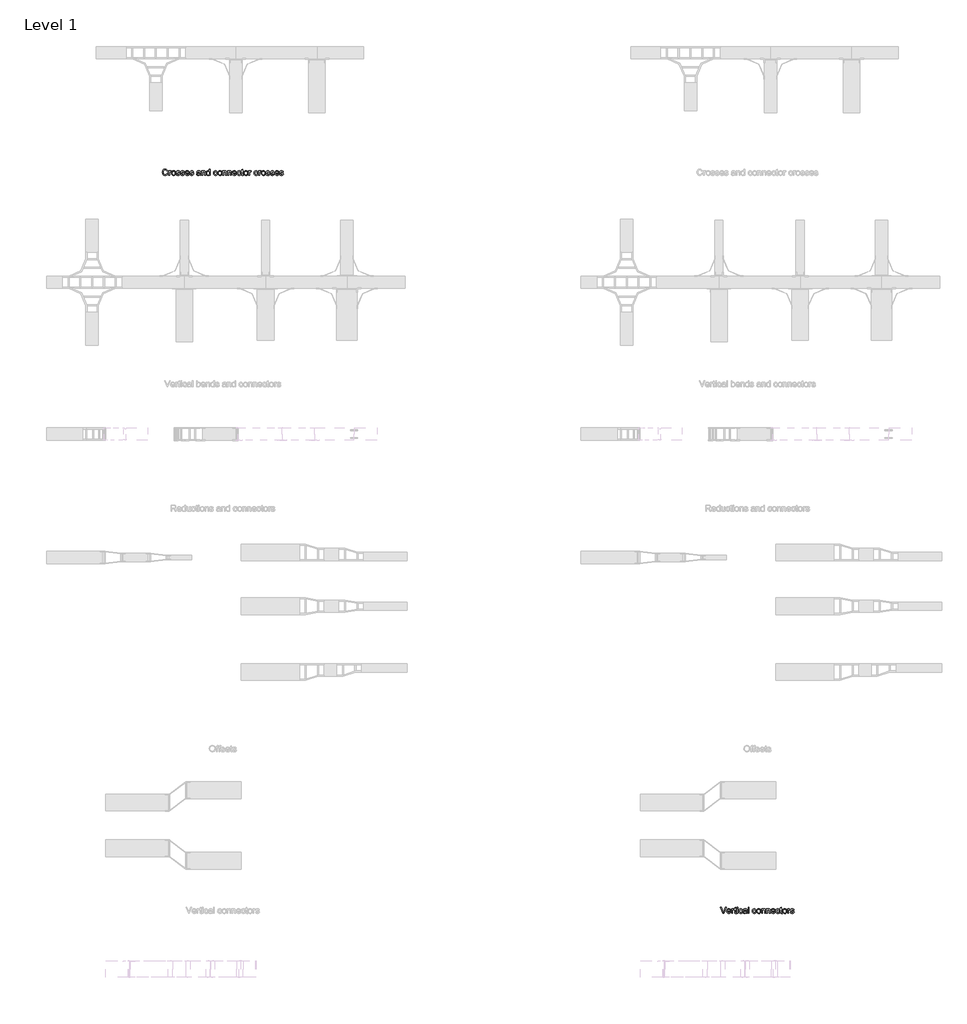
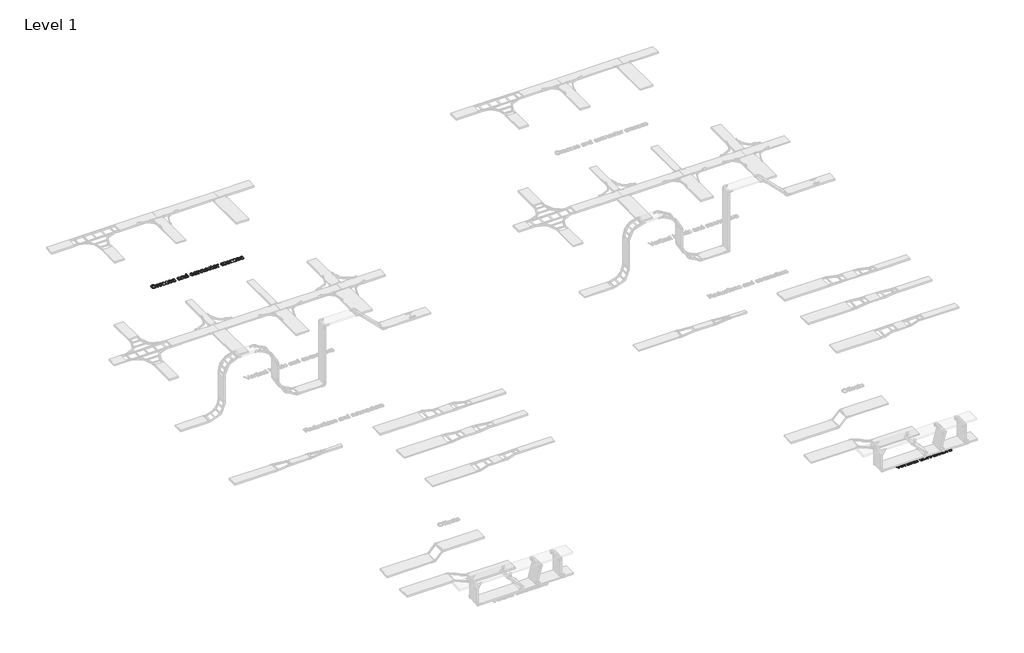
# One storey, part 40 of 106: 2 proxies.
"""IFC4 building model written with IfcOpenShell, lengths in millimetres."""

from ifc_helpers import new_model, si_unit, origin, origin_with_axes, place, context, project, spatial, polyline, outline, extrude, element, save

model = new_model("IFC4")

# Units and contexts
model_context = context("Model", 3, world=origin())
ifc_project = project(units=[si_unit("LENGTHUNIT", "METRE", prefix="MILLI")], contexts=[model_context])

# Site, building, storey
site = spatial("IfcSite", under=ifc_project)
building = spatial("IfcBuilding", under=site)
storey = spatial("IfcBuildingStorey", under=building, Name="Level 1", Elevation=0.0)

# Proxies
placement = place(None, origin())
element("IfcBuildingElementProxy", 1, Name="150mm Arial 2", ObjectType="150mm Arial 2", at=placement, inside=storey, context=model_context, shape_type="SweptSolid", body=[
    extrude(outline(polyline([(28673.187076, 30901.4112533), (28692.0226342, 30896.5552109), (28683.331422, 30874.6064514), (28669.6921971, 30858.5713949), (28651.7763439, 30848.7627412), (28630.2552472, 30845.49319), (28608.4076552, 30847.9671964), (28591.0574206, 30855.3892157), (28577.7584865, 30867.5017304), (28568.0647959, 30884.0472231), (28562.1464943, 30903.4989836), (28560.1737271, 30924.3303016), (28562.4040117, 30946.3020537), (28569.0948655, 30965.2755676), (28579.8968006, 30980.6484365), (28594.460329, 30991.8182536), (28611.7323887, 30998.619472), (28630.6599174, 31000.8865448), (28651.3118929, 30997.9526859), (28668.386216, 30989.1511091), (28681.3494578, 30975.0244405), (28689.6681894, 30956.115306), (28670.8326312, 30951.6271456), (28664.3027258, 30965.3629396), (28655.3815874, 30974.7853172), (28643.9588515, 30980.2345693), (28629.9241534, 30982.0509866), (28613.7465426, 30980.0368327), (28600.4568056, 30973.9943709), (28590.3722404, 30964.5581977), (28583.8101453, 30952.3629096), (28579.0092852, 30924.3670898), (28580.4302295, 30906.9662714), (28584.6930621, 30891.9198978), (28591.9587315, 30879.8027846), (28602.388186, 30871.1897474), (28614.8915754, 30866.043998), (28628.379049, 30864.3287482), (28644.1014058, 30866.6647988), (28657.2026033, 30873.6729508), (28667.0940305, 30885.2796278), (28673.187076, 30901.4112533)])), origin_with_axes(), (0.0, 0.0, 1.0), 15.0),
    extrude(outline(polyline([(28715.5670819, 30847.8476348), (28715.5670819, 30958.5065389), (28732.0481952, 30958.5065389), (28732.0481952, 30942.1357901), (28743.7468427, 30957.2189519), (28755.5190665, 30960.8609837), (28774.4282011, 30955.0484482), (28768.137419, 30938.1626646), (28754.8936671, 30942.0254255), (28744.2434834, 30938.3098174), (28737.4560606, 30928.0091215), (28734.40264, 30906.0097782), (28734.40264, 30847.8476348), (28715.5670819, 30847.8476348)])), origin_with_axes(), (0.0, 0.0, 1.0), 15.0),
    extrude(outline(polyline([(28781.4915354, 30903.1770869), (28785.5658285, 30929.8577286), (28797.7887078, 30948.6105133), (28812.8902637, 30957.7983661), (28830.9716637, 30960.8609837), (28850.7591166, 30957.13158), (28866.5642468, 30945.9433688), (28876.9247235, 30928.179267), (28880.3782157, 30904.7221912), (28878.8515054, 30885.693495), (28874.2713746, 30871.2081415), (28866.7711804, 30860.3602211), (28856.4842801, 30852.2438246), (28844.2659993, 30847.1808487), (28830.9716637, 30845.49319), (28810.9450876, 30849.2087982), (28795.1583515, 30860.3556226), (28784.9082394, 30878.492205), (28781.4915354, 30903.1770869)]), holes=[polyline([(28800.3270935, 30903.2138751), (28802.5067944, 30886.1671431), (28809.0458968, 30874.0224387), (28818.8867402, 30866.7521708), (28830.9716637, 30864.3287482), (28843.001405, 30866.7659664), (28852.8238543, 30874.077621), (28859.3629567, 30886.3832738), (28861.5426575, 30903.8024862), (28859.3491611, 30920.3525775), (28852.768672, 30932.331735), (28842.9324271, 30939.6020029), (28830.9716637, 30942.0254255), (28818.8867402, 30939.6112), (28809.0458968, 30932.3685232), (28802.5067944, 30920.25141), (28800.3270935, 30903.2138751)])]), origin_with_axes(), (0.0, 0.0, 1.0), 15.0),
    extrude(outline(polyline([(28894.5048843, 30880.8098615), (28913.3404425, 30883.1643063), (28916.3110896, 30875.1076906), (28922.0592457, 30869.1847905), (28942.0352381, 30864.3287482), (28961.2386782, 30868.7801203), (28967.4926722, 30879.227969), (28965.9199766, 30884.028829), (28961.20189, 30887.6892549), (28941.8145089, 30893.060332), (28913.4508071, 30902.275776), (28901.0715779, 30913.0363243), (28896.8593291, 30928.2298507), (28900.2438434, 30942.2645488), (28909.4776815, 30952.988309), (28921.4522405, 30958.5617212), (28937.6574423, 30960.8609837), (28960.5764906, 30957.1637696), (28975.1446177, 30947.1573794), (28981.6193408, 30930.2532017), (28962.7837826, 30927.8987569), (28955.7020542, 30938.2914233), (28939.1289703, 30942.0254255), (28921.1027526, 30938.4569702), (28915.6948872, 30930.1428371), (28917.9389674, 30924.6613954), (28924.9655135, 30920.5043288), (28941.1891095, 30916.4944151), (28968.8354414, 30907.628459), (28981.6745231, 30897.5852805), (28986.3282303, 30881.2145317), (28980.8651827, 30863.188314), (28965.1014392, 30850.1101091), (28941.7777207, 30845.49319), (28922.7858127, 30847.7188761), (28908.9258585, 30854.3959343), (28899.6736263, 30865.4507882), (28894.5048843, 30880.8098615)])), origin_with_axes(), (0.0, 0.0, 1.0), 15.0),
    extrude(outline(polyline([(29000.4548989, 30880.8098615), (29019.2904571, 30883.1643063), (29022.2611042, 30875.1076906), (29028.0092604, 30869.1847905), (29047.9852527, 30864.3287482), (29067.1886928, 30868.7801203), (29073.4426868, 30879.227969), (29071.8699912, 30884.028829), (29067.1519046, 30887.6892549), (29047.7645235, 30893.060332), (29019.4008217, 30902.275776), (29007.0215925, 30913.0363243), (29002.8093437, 30928.2298507), (29006.193858, 30942.2645488), (29015.4276961, 30952.988309), (29027.4022551, 30958.5617212), (29043.607457, 30960.8609837), (29066.5265053, 30957.1637696), (29081.0946323, 30947.1573794), (29087.5693554, 30930.2532017), (29068.7337972, 30927.8987569), (29061.6520688, 30938.2914233), (29045.0789849, 30942.0254255), (29027.0527672, 30938.4569702), (29021.6449018, 30930.1428371), (29023.888982, 30924.6613954), (29030.9155281, 30920.5043288), (29047.1391241, 30916.4944151), (29074.785456, 30907.628459), (29087.6245377, 30897.5852805), (29092.2782449, 30881.2145317), (29086.8151973, 30863.188314), (29071.0514538, 30850.1101091), (29047.7277353, 30845.49319), (29028.7358273, 30847.7188761), (29014.8758731, 30854.3959343), (29005.623641, 30865.4507882), (29000.4548989, 30880.8098615)])), origin_with_axes(), (0.0, 0.0, 1.0), 15.0),
    extrude(outline(polyline([(29190.944196, 30880.8098615), (29209.4118722, 30878.4554168), (29202.7578066, 30864.5402803), (29192.1398125, 30854.1384169), (29177.7970132, 30847.6544967), (29159.968532, 30845.49319), (29137.8680212, 30849.2225937), (29120.8626759, 30860.4108049), (29110.0193541, 30878.3312566), (29106.4049135, 30902.2573819), (29110.0561423, 30926.988249), (29121.0098287, 30945.4835163), (29137.7852477, 30957.0166168), (29158.9016742, 30960.8609837), (29179.3605117, 30957.0258139), (29195.7082679, 30945.5203045), (29206.4274295, 30927.0618254), (29210.0004834, 30902.3677465), (29209.8901188, 30897.2909749), (29125.2404717, 30897.2909749), (29128.5008259, 30883.1918975), (29136.0745964, 30872.8268223), (29147.0052902, 30866.4532667), (29160.336414, 30864.3287482), (29178.8040902, 30868.2650855), (29190.944196, 30880.8098615)]), holes=[polyline([(29125.2404717, 30916.1265331), (29191.1649252, 30916.1265331), (29188.6173424, 30926.0777411), (29183.6233443, 30933.1962577), (29172.6420668, 30939.8181336), (29158.8280978, 30942.0254255), (29146.1315705, 30940.2641905), (29135.633138, 30934.9804853), (29128.335279, 30926.7445272), (29125.2404717, 30916.1265331)])]), origin_with_axes(), (0.0, 0.0, 1.0), 15.0),
    extrude(outline(polyline([(29221.7727072, 30880.8098615), (29240.6082654, 30883.1643063), (29243.5789125, 30875.1076906), (29249.3270687, 30869.1847905), (29269.303061, 30864.3287482), (29288.5065011, 30868.7801203), (29294.7604951, 30879.227969), (29293.1877995, 30884.028829), (29288.4697129, 30887.6892549), (29269.0823318, 30893.060332), (29240.71863, 30902.275776), (29228.3394008, 30913.0363243), (29224.127152, 30928.2298507), (29227.5116663, 30942.2645488), (29236.7455044, 30952.988309), (29248.7200634, 30958.5617212), (29264.9252653, 30960.8609837), (29287.8443136, 30957.1637696), (29302.4124406, 30947.1573794), (29308.8871637, 30930.2532017), (29290.0516055, 30927.8987569), (29282.9698771, 30938.2914233), (29266.3967932, 30942.0254255), (29248.3705755, 30938.4569702), (29242.9627101, 30930.1428371), (29245.2067903, 30924.6613954), (29252.2333364, 30920.5043288), (29268.4569324, 30916.4944151), (29296.1032643, 30907.628459), (29308.942346, 30897.5852805), (29313.5960532, 30881.2145317), (29308.1330056, 30863.188314), (29292.3692621, 30850.1101091), (29269.0455436, 30845.49319), (29250.0536356, 30847.7188761), (29236.1936814, 30854.3959343), (29226.9414493, 30865.4507882), (29221.7727072, 30880.8098615)])), origin_with_axes(), (0.0, 0.0, 1.0), 15.0),
    extrude(outline(polyline([(29464.2805184, 30861.9743034), (29446.0151774, 30849.2087982), (29425.8368499, 30845.49319), (29410.0960991, 30847.7280731), (29398.4848236, 30854.4327225), (29391.3249203, 30864.6138567), (29388.9382858, 30877.2781944), (29392.5435294, 30892.1774152), (29402.0164908, 30902.9931459), (29415.2050603, 30909.1735634), (29431.5022327, 30912.0062547), (29464.1701538, 30918.4809779), (29464.2805184, 30922.6748326), (29462.9837344, 30931.0809362), (29459.0933823, 30936.580772), (29450.3929731, 30940.6642622), (29438.2712614, 30942.0254255), (29419.214974, 30938.4017879), (29410.1282887, 30925.5443122), (29391.2927306, 30927.8987569), (29399.4413168, 30946.2928567), (29415.8488538, 30957.0717991), (29440.6992825, 30960.8609837), (29463.5263603, 30957.5132575), (29476.4206243, 30949.107154), (29482.1963716, 30936.3232546), (29483.1160766, 30919.8421412), (29483.1160766, 30896.4080581), (29484.0725698, 30863.6849547), (29487.8249661, 30847.8476348), (29468.989408, 30847.8476348), (29464.2805184, 30861.9743034)]), holes=[polyline([(29464.2805184, 30899.6454197), (29433.8934656, 30893.8696724), (29417.6882638, 30890.8162518), (29410.3490179, 30885.8498449), (29407.773844, 30878.6025696), (29413.3840444, 30868.4122383), (29429.8467637, 30864.3287482), (29448.903051, 30868.8353026), (29461.1903097, 30879.7430038), (29464.1701538, 30894.3111308), (29464.2805184, 30899.6454197)])]), origin_with_axes(), (0.0, 0.0, 1.0), 15.0),
    extrude(outline(polyline([(29509.0149691, 30847.8476348), (29509.0149691, 30958.5065389), (29527.8505272, 30958.5065389), (29527.8505272, 30943.0554951), (29542.2531073, 30956.4096116), (29561.9164, 30960.8609837), (29579.7034944, 30957.2741342), (29591.8436003, 30947.8563552), (29597.4905889, 30934.0055981), (29598.4838703, 30915.7954393), (29598.4838703, 30847.8476348), (29579.6483121, 30847.8476348), (29579.6483121, 30913.2570535), (29577.4778084, 30929.9221079), (29569.8074688, 30938.7328817), (29556.8764166, 30942.0254255), (29545.8445553, 30940.1768185), (29536.4405718, 30934.6309974), (29529.9980384, 30923.9164343), (29527.8505272, 30906.5616012), (29527.8505272, 30847.8476348), (29509.0149691, 30847.8476348)])), origin_with_axes(), (0.0, 0.0, 1.0), 15.0),
    extrude(outline(polyline([(29692.661661, 30847.8476348), (29692.661661, 30865.6163351), (29680.1996585, 30850.5239763), (29662.973584, 30845.49319), (29650.79669, 30847.3142059), (29639.6498655, 30852.7772535), (29630.2136924, 30861.5006553), (29623.1687522, 30873.1027337), (29618.7817594, 30887.1144392), (29617.3194284, 30903.0667223), (29622.7088997, 30933.0491049), (29629.4411402, 30944.9408904), (29638.8589193, 30953.6872848), (29650.2494655, 30959.067559), (29662.9000076, 30960.8609837), (29680.2640378, 30955.7290299), (29692.661661, 30942.3933075), (29692.661661, 30998.5321), (29711.4972192, 30998.5321), (29711.4972192, 30847.8476348), (29692.661661, 30847.8476348)]), holes=[polyline([(29636.1549866, 30903.1402987), (29638.2795051, 30886.1027638), (29644.6530607, 30873.9856505), (29653.9144899, 30866.7429738), (29664.7026294, 30864.3287482), (29675.4861704, 30866.6326092), (29684.5130749, 30873.5441921), (29690.6245145, 30885.1922558), (29692.661661, 30901.7055589), (29690.5877263, 30919.7593678), (29684.3659221, 30932.2765527), (29675.1090914, 30939.5882073), (29663.9300772, 30942.0254255), (29653.0315731, 30939.6847764), (29644.1012377, 30932.6628288), (29638.1415494, 30920.6008979), (29636.1549866, 30903.1402987)])]), origin_with_axes(), (0.0, 0.0, 1.0), 15.0),
    extrude(outline(polyline([(29869.2450187, 30887.8731959), (29888.0805769, 30885.5187511), (29882.8290614, 30868.7663247), (29872.9606269, 30856.1065856), (29859.4041754, 30848.1465389), (29843.0886089, 30845.49319), (29823.0528357, 30849.1950026), (29807.3856612, 30860.3004403), (29797.2735049, 30878.3220596), (29793.9027861, 30902.7724167), (29795.3421244, 30919.5340401), (29799.6601393, 30934.0607803), (29806.9258087, 30945.7916175), (29817.2081105, 30954.1655314), (29829.5091647, 30959.1871206), (29842.8310915, 30960.8609837), (29858.7465863, 30958.5617212), (29871.4707048, 30951.6639338), (29880.5987768, 30940.5355035), (29885.7261321, 30925.5443122), (29866.890574, 30923.1898674), (29858.1533766, 30937.2981419), (29842.9782443, 30942.0254255), (29830.8059488, 30939.6985719), (29821.1444479, 30932.7180111), (29814.8398702, 30920.7066639), (29812.7383443, 30903.2874515), (29814.7938849, 30885.6337142), (29820.9605069, 30873.5809803), (29830.4472638, 30866.6418062), (29842.4632095, 30864.3287482), (29852.2166809, 30865.772685), (29860.2135157, 30870.1044955), (29866.0306498, 30877.4345442), (29869.2450187, 30887.8731959)])), origin_with_axes(), (0.0, 0.0, 1.0), 15.0),
    extrude(outline(polyline([(29899.8528007, 30903.1770869), (29903.9270938, 30929.8577286), (29916.1499731, 30948.6105133), (29931.251529, 30957.7983661), (29949.3329291, 30960.8609837), (29969.1203819, 30957.13158), (29984.9255121, 30945.9433688), (29995.2859888, 30928.179267), (29998.739481, 30904.7221912), (29997.2127708, 30885.693495), (29992.6326399, 30871.2081415), (29985.1324457, 30860.3602211), (29974.8455454, 30852.2438246), (29962.6272647, 30847.1808487), (29949.3329291, 30845.49319), (29929.306353, 30849.2087982), (29913.5196168, 30860.3556226), (29903.2695048, 30878.492205), (29899.8528007, 30903.1770869)]), holes=[polyline([(29918.6883589, 30903.2138751), (29920.8680597, 30886.1671431), (29927.4071622, 30874.0224387), (29937.2480055, 30866.7521708), (29949.3329291, 30864.3287482), (29961.3626703, 30866.7659664), (29971.1851196, 30874.077621), (29977.7242221, 30886.3832738), (29979.9039229, 30903.8024862), (29977.7104265, 30920.3525775), (29971.1299373, 30932.331735), (29961.2936924, 30939.6020029), (29949.3329291, 30942.0254255), (29937.2480055, 30939.6112), (29927.4071622, 30932.3685232), (29920.8680597, 30920.25141), (29918.6883589, 30903.2138751)])]), origin_with_axes(), (0.0, 0.0, 1.0), 15.0),
    extrude(outline(polyline([(30019.929484, 30847.8476348), (30019.929484, 30958.5065389), (30038.7650421, 30958.5065389), (30038.7650421, 30943.0554951), (30053.1676222, 30956.4096116), (30072.8309149, 30960.8609837), (30090.6180093, 30957.2741342), (30102.7581152, 30947.8563552), (30108.4051038, 30934.0055981), (30109.3983852, 30915.7954393), (30109.3983852, 30847.8476348), (30090.562827, 30847.8476348), (30090.562827, 30913.2570535), (30088.3923233, 30929.9221079), (30080.7219837, 30938.7328817), (30067.7909315, 30942.0254255), (30056.7590702, 30940.1768185), (30047.3550867, 30934.6309974), (30040.9125533, 30923.9164343), (30038.7650421, 30906.5616012), (30038.7650421, 30847.8476348), (30019.929484, 30847.8476348)])), origin_with_axes(), (0.0, 0.0, 1.0), 15.0),
    extrude(outline(polyline([(30135.2972776, 30847.8476348), (30135.2972776, 30958.5065389), (30154.1328358, 30958.5065389), (30154.1328358, 30943.0554951), (30168.5354159, 30956.4096116), (30188.1987085, 30960.8609837), (30205.985803, 30957.2741342), (30218.1259089, 30947.8563552), (30223.7728975, 30934.0055981), (30224.7661789, 30915.7954393), (30224.7661789, 30847.8476348), (30205.9306207, 30847.8476348), (30205.9306207, 30913.2570535), (30203.7601169, 30929.9221079), (30196.0897773, 30938.7328817), (30183.1587252, 30942.0254255), (30172.1268639, 30940.1768185), (30162.7228804, 30934.6309974), (30156.2803469, 30923.9164343), (30154.1328358, 30906.5616012), (30154.1328358, 30847.8476348), (30135.2972776, 30847.8476348)])), origin_with_axes(), (0.0, 0.0, 1.0), 15.0),
    extrude(outline(polyline([(30328.1410195, 30880.8098615), (30346.6086957, 30878.4554168), (30339.9546301, 30864.5402803), (30329.336636, 30854.1384169), (30314.9938367, 30847.6544967), (30297.1653555, 30845.49319), (30275.0648447, 30849.2225937), (30258.0594994, 30860.4108049), (30247.2161776, 30878.3312566), (30243.601737, 30902.2573819), (30247.2529658, 30926.988249), (30258.2066522, 30945.4835163), (30274.9820712, 30957.0166168), (30296.0984977, 30960.8609837), (30316.5573352, 30957.0258139), (30332.9050914, 30945.5203045), (30343.624253, 30927.0618254), (30347.1973069, 30902.3677465), (30347.0869423, 30897.2909749), (30262.4372952, 30897.2909749), (30265.6976494, 30883.1918975), (30273.2714199, 30872.8268223), (30284.2021137, 30866.4532667), (30297.5332375, 30864.3287482), (30316.0009137, 30868.2650855), (30328.1410195, 30880.8098615)]), holes=[polyline([(30262.4372952, 30916.1265331), (30328.3617487, 30916.1265331), (30325.8141659, 30926.0777411), (30320.8201678, 30933.1962577), (30309.8388903, 30939.8181336), (30296.0249213, 30942.0254255), (30283.328394, 30940.2641905), (30272.8299615, 30934.9804853), (30265.5321025, 30926.7445272), (30262.4372952, 30916.1265331)])]), origin_with_axes(), (0.0, 0.0, 1.0), 15.0),
    extrude(outline(polyline([(30436.6662081, 30887.8731959), (30455.5017662, 30885.5187511), (30450.2502508, 30868.7663247), (30440.3818162, 30856.1065856), (30426.8253647, 30848.1465389), (30410.5097982, 30845.49319), (30390.4740251, 30849.1950026), (30374.8068506, 30860.3004403), (30364.6946943, 30878.3220596), (30361.3239755, 30902.7724167), (30362.7633138, 30919.5340401), (30367.0813287, 30934.0607803), (30374.3469981, 30945.7916175), (30384.6292999, 30954.1655314), (30396.9303541, 30959.1871206), (30410.2522808, 30960.8609837), (30426.1677757, 30958.5617212), (30438.8918942, 30951.6639338), (30448.0199662, 30940.5355035), (30453.1473215, 30925.5443122), (30434.3117633, 30923.1898674), (30425.5745659, 30937.2981419), (30410.3994336, 30942.0254255), (30398.2271381, 30939.6985719), (30388.5656372, 30932.7180111), (30382.2610595, 30920.7066639), (30380.1595336, 30903.2874515), (30382.2150743, 30885.6337142), (30388.3816962, 30873.5809803), (30397.8684532, 30866.6418062), (30409.8843988, 30864.3287482), (30419.6378702, 30865.772685), (30427.6347051, 30870.1044955), (30433.4518392, 30877.4345442), (30436.6662081, 30887.8731959)])), origin_with_axes(), (0.0, 0.0, 1.0), 15.0),
    extrude(outline(polyline([(30512.0084407, 30863.556196), (30514.3628855, 30847.2958118), (30500.2730051, 30845.49319), (30484.4908675, 30848.620187), (30476.6181928, 30856.8239555), (30474.3373244, 30878.1978994), (30474.3373244, 30939.6709808), (30460.2106558, 30939.6709808), (30460.2106558, 30958.5065389), (30474.3373244, 30958.5065389), (30474.3373244, 30985.3987128), (30493.1728826, 30996.4719608), (30493.1728826, 30958.5065389), (30512.0084407, 30958.5065389), (30512.0084407, 30939.6709808), (30493.1728826, 30939.6709808), (30493.1728826, 30878.7497224), (30494.1661639, 30869.0376377), (30497.3851314, 30865.597941), (30503.8046722, 30864.3287482), (30512.0084407, 30863.556196)])), origin_with_axes(), (0.0, 0.0, 1.0), 15.0),
    extrude(outline(polyline([(30526.1351093, 30903.1770869), (30530.2094024, 30929.8577286), (30542.4322817, 30948.6105133), (30557.5338376, 30957.7983661), (30575.6152377, 30960.8609837), (30595.4026905, 30957.13158), (30611.2078207, 30945.9433688), (30621.5682974, 30928.179267), (30625.0217896, 30904.7221912), (30623.4950793, 30885.693495), (30618.9149485, 30871.2081415), (30611.4147543, 30860.3602211), (30601.127854, 30852.2438246), (30588.9095733, 30847.1808487), (30575.6152377, 30845.49319), (30555.5886616, 30849.2087982), (30539.8019254, 30860.3556226), (30529.5518133, 30878.492205), (30526.1351093, 30903.1770869)]), holes=[polyline([(30544.9706675, 30903.2138751), (30547.1503683, 30886.1671431), (30553.6894708, 30874.0224387), (30563.5303141, 30866.7521708), (30575.6152377, 30864.3287482), (30587.6449789, 30866.7659664), (30597.4674282, 30874.077621), (30604.0065306, 30886.3832738), (30606.1862315, 30903.8024862), (30603.9927351, 30920.3525775), (30597.4122459, 30932.331735), (30587.576001, 30939.6020029), (30575.6152377, 30942.0254255), (30563.5303141, 30939.6112), (30553.6894708, 30932.3685232), (30547.1503683, 30920.25141), (30544.9706675, 30903.2138751)])]), origin_with_axes(), (0.0, 0.0, 1.0), 15.0),
    extrude(outline(polyline([(30646.2117925, 30847.8476348), (30646.2117925, 30958.5065389), (30662.6929059, 30958.5065389), (30662.6929059, 30942.1357901), (30674.3915534, 30957.2189519), (30686.1637772, 30960.8609837), (30705.0729118, 30955.0484482), (30698.7821297, 30938.1626646), (30685.5383778, 30942.0254255), (30674.8881941, 30938.3098174), (30668.1007713, 30928.0091215), (30665.0473507, 30906.0097782), (30665.0473507, 30847.8476348), (30646.2117925, 30847.8476348)])), origin_with_axes(), (0.0, 0.0, 1.0), 15.0),
    extrude(outline(polyline([(30846.3395979, 30887.8731959), (30865.1751561, 30885.5187511), (30859.9236406, 30868.7663247), (30850.0552061, 30856.1065856), (30836.4987545, 30848.1465389), (30820.1831881, 30845.49319), (30800.1474149, 30849.1950026), (30784.4802404, 30860.3004403), (30774.3680841, 30878.3220596), (30770.9973653, 30902.7724167), (30772.4367036, 30919.5340401), (30776.7547185, 30934.0607803), (30784.0203879, 30945.7916175), (30794.3026897, 30954.1655314), (30806.6037439, 30959.1871206), (30819.9256707, 30960.8609837), (30835.8411655, 30958.5617212), (30848.565284, 30951.6639338), (30857.693356, 30940.5355035), (30862.8207113, 30925.5443122), (30843.9851532, 30923.1898674), (30835.2479558, 30937.2981419), (30820.0728235, 30942.0254255), (30807.9005279, 30939.6985719), (30798.2390271, 30932.7180111), (30791.9344494, 30920.7066639), (30789.8329235, 30903.2874515), (30791.8884641, 30885.6337142), (30798.0550861, 30873.5809803), (30807.541843, 30866.6418062), (30819.5577887, 30864.3287482), (30829.3112601, 30865.772685), (30837.3080949, 30870.1044955), (30843.125229, 30877.4345442), (30846.3395979, 30887.8731959)])), origin_with_axes(), (0.0, 0.0, 1.0), 15.0),
    extrude(outline(polyline([(30881.6562695, 30847.8476348), (30881.6562695, 30958.5065389), (30898.1373828, 30958.5065389), (30898.1373828, 30942.1357901), (30909.8360303, 30957.2189519), (30921.6082541, 30960.8609837), (30940.5173887, 30955.0484482), (30934.2266066, 30938.1626646), (30920.9828547, 30942.0254255), (30910.332671, 30938.3098174), (30903.5452482, 30928.0091215), (30900.4918276, 30906.0097782), (30900.4918276, 30847.8476348), (30881.6562695, 30847.8476348)])), origin_with_axes(), (0.0, 0.0, 1.0), 15.0),
    extrude(outline(polyline([(30947.580723, 30903.1770869), (30951.6550161, 30929.8577286), (30963.8778954, 30948.6105133), (30978.9794513, 30957.7983661), (30997.0608513, 30960.8609837), (31016.8483042, 30957.13158), (31032.6534344, 30945.9433688), (31043.0139111, 30928.179267), (31046.4674033, 30904.7221912), (31044.940693, 30885.693495), (31040.3605622, 30871.2081415), (31032.860368, 30860.3602211), (31022.5734677, 30852.2438246), (31010.3551869, 30847.1808487), (30997.0608513, 30845.49319), (30977.0342752, 30849.2087982), (30961.2475391, 30860.3556226), (30950.997427, 30878.492205), (30947.580723, 30903.1770869)]), holes=[polyline([(30966.4162811, 30903.2138751), (30968.595982, 30886.1671431), (30975.1350844, 30874.0224387), (30984.9759278, 30866.7521708), (30997.0608513, 30864.3287482), (31009.0905926, 30866.7659664), (31018.9130419, 30874.077621), (31025.4521443, 30886.3832738), (31027.6318451, 30903.8024862), (31025.4383487, 30920.3525775), (31018.8578596, 30932.331735), (31009.0216147, 30939.6020029), (30997.0608513, 30942.0254255), (30984.9759278, 30939.6112), (30975.1350844, 30932.3685232), (30968.595982, 30920.25141), (30966.4162811, 30903.2138751)])]), origin_with_axes(), (0.0, 0.0, 1.0), 15.0),
    extrude(outline(polyline([(31060.5940719, 30880.8098615), (31079.4296301, 30883.1643063), (31082.4002772, 30875.1076906), (31088.1484333, 30869.1847905), (31108.1244257, 30864.3287482), (31127.3278658, 30868.7801203), (31133.5818598, 30879.227969), (31132.0091642, 30884.028829), (31127.2910776, 30887.6892549), (31107.9036965, 30893.060332), (31079.5399947, 30902.275776), (31067.1607655, 30913.0363243), (31062.9485167, 30928.2298507), (31066.333031, 30942.2645488), (31075.5668691, 30952.988309), (31087.5414281, 30958.5617212), (31103.7466299, 30960.8609837), (31126.6656782, 30957.1637696), (31141.2338053, 30947.1573794), (31147.7085284, 30930.2532017), (31128.8729702, 30927.8987569), (31121.7912418, 30938.2914233), (31105.2181579, 30942.0254255), (31087.1919402, 30938.4569702), (31081.7840748, 30930.1428371), (31084.028155, 30924.6613954), (31091.0547011, 30920.5043288), (31107.2782971, 30916.4944151), (31134.924629, 30907.628459), (31147.7637107, 30897.5852805), (31152.4174179, 30881.2145317), (31146.9543703, 30863.188314), (31131.1906268, 30850.1101091), (31107.8669083, 30845.49319), (31088.8750003, 30847.7188761), (31075.0150461, 30854.3959343), (31065.7628139, 30865.4507882), (31060.5940719, 30880.8098615)])), origin_with_axes(), (0.0, 0.0, 1.0), 15.0),
    extrude(outline(polyline([(31166.5440865, 30880.8098615), (31185.3796447, 30883.1643063), (31188.3502918, 30875.1076906), (31194.098448, 30869.1847905), (31214.0744403, 30864.3287482), (31233.2778804, 30868.7801203), (31239.5318744, 30879.227969), (31237.9591788, 30884.028829), (31233.2410922, 30887.6892549), (31213.8537111, 30893.060332), (31185.4900093, 30902.275776), (31173.1107801, 30913.0363243), (31168.8985313, 30928.2298507), (31172.2830456, 30942.2645488), (31181.5168837, 30952.988309), (31193.4914427, 30958.5617212), (31209.6966446, 30960.8609837), (31232.6156929, 30957.1637696), (31247.1838199, 30947.1573794), (31253.658543, 30930.2532017), (31234.8229848, 30927.8987569), (31227.7412564, 30938.2914233), (31211.1681725, 30942.0254255), (31193.1419548, 30938.4569702), (31187.7340894, 30930.1428371), (31189.9781696, 30924.6613954), (31197.0047157, 30920.5043288), (31213.2283117, 30916.4944151), (31240.8746436, 30907.628459), (31253.7137253, 30897.5852805), (31258.3674325, 30881.2145317), (31252.9043849, 30863.188314), (31237.1406414, 30850.1101091), (31213.8169229, 30845.49319), (31194.8250149, 30847.7188761), (31180.9650607, 30854.3959343), (31171.7128286, 30865.4507882), (31166.5440865, 30880.8098615)])), origin_with_axes(), (0.0, 0.0, 1.0), 15.0),
    extrude(outline(polyline([(31357.0333836, 30880.8098615), (31375.5010598, 30878.4554168), (31368.8469942, 30864.5402803), (31358.2290001, 30854.1384169), (31343.8862008, 30847.6544967), (31326.0577196, 30845.49319), (31303.9572088, 30849.2225937), (31286.9518635, 30860.4108049), (31276.1085417, 30878.3312566), (31272.4941011, 30902.2573819), (31276.1453299, 30926.988249), (31287.0990163, 30945.4835163), (31303.8744353, 30957.0166168), (31324.9908618, 30960.8609837), (31345.4496993, 30957.0258139), (31361.7974555, 30945.5203045), (31372.5166171, 30927.0618254), (31376.089671, 30902.3677465), (31375.9793064, 30897.2909749), (31291.3296593, 30897.2909749), (31294.5900135, 30883.1918975), (31302.163784, 30872.8268223), (31313.0944778, 30866.4532667), (31326.4256016, 30864.3287482), (31344.8932778, 30868.2650855), (31357.0333836, 30880.8098615)]), holes=[polyline([(31291.3296593, 30916.1265331), (31357.2541128, 30916.1265331), (31354.70653, 30926.0777411), (31349.7125319, 30933.1962577), (31338.7312544, 30939.8181336), (31324.9172854, 30942.0254255), (31312.2207581, 30940.2641905), (31301.7223256, 30934.9804853), (31294.4244666, 30926.7445272), (31291.3296593, 30916.1265331)])]), origin_with_axes(), (0.0, 0.0, 1.0), 15.0),
    extrude(outline(polyline([(31387.8618948, 30880.8098615), (31406.697453, 30883.1643063), (31409.6681001, 30875.1076906), (31415.4162563, 30869.1847905), (31435.3922486, 30864.3287482), (31454.5956887, 30868.7801203), (31460.8496827, 30879.227969), (31459.2769871, 30884.028829), (31454.5589005, 30887.6892549), (31435.1715194, 30893.060332), (31406.8078176, 30902.275776), (31394.4285884, 30913.0363243), (31390.2163396, 30928.2298507), (31393.6008539, 30942.2645488), (31402.834692, 30952.988309), (31414.809251, 30958.5617212), (31431.0144529, 30960.8609837), (31453.9335012, 30957.1637696), (31468.5016282, 30947.1573794), (31474.9763513, 30930.2532017), (31456.1407931, 30927.8987569), (31449.0590647, 30938.2914233), (31432.4859808, 30942.0254255), (31414.4597631, 30938.4569702), (31409.0518977, 30930.1428371), (31411.2959779, 30924.6613954), (31418.322524, 30920.5043288), (31434.54612, 30916.4944151), (31462.1924519, 30907.628459), (31475.0315336, 30897.5852805), (31479.6852408, 30881.2145317), (31474.2221932, 30863.188314), (31458.4584497, 30850.1101091), (31435.1347312, 30845.49319), (31416.1428232, 30847.7188761), (31402.282869, 30854.3959343), (31393.0306369, 30865.4507882), (31387.8618948, 30880.8098615)])), origin_with_axes(), (0.0, 0.0, 1.0), 15.0),
])
element("IfcBuildingElementProxy", 2, Name="150mm Arial 2", ObjectType="150mm Arial 2", at=placement, inside=storey, context=model_context, shape_type="SweptSolid", body=[
    extrude(outline(polyline([(42088.5897513, 13047.8476348), (42028.624986, 13198.5321), (42048.7849194, 13198.5321), (42088.920845, 13089.9701232), (42097.0510371, 13065.5059705), (42105.0708646, 13089.9701232), (42145.3171549, 13198.5321), (42165.4770882, 13198.5321), (42108.0507088, 13047.8476348), (42088.5897513, 13047.8476348)])), origin_with_axes(), (0.0, 0.0, 1.0), 15.0),
    extrude(outline(polyline([(42258.1097746, 13080.8098615), (42276.5774508, 13078.4554168), (42269.9233852, 13064.5402803), (42259.3053911, 13054.1384169), (42244.9625918, 13047.6544967), (42227.1341106, 13045.49319), (42205.0335998, 13049.2225937), (42188.0282546, 13060.4108049), (42177.1849327, 13078.3312566), (42173.5704921, 13102.2573819), (42177.2217209, 13126.988249), (42188.1754073, 13145.4835163), (42204.9508263, 13157.0166168), (42226.0672529, 13160.8609837), (42246.5260903, 13157.0258139), (42262.8738465, 13145.5203045), (42273.5930081, 13127.0618254), (42277.166062, 13102.3677465), (42277.0556974, 13097.2909749), (42192.4060503, 13097.2909749), (42195.6664045, 13083.1918975), (42203.2401751, 13072.8268223), (42214.1708688, 13066.4532667), (42227.5019926, 13064.3287482), (42245.9696688, 13068.2650855), (42258.1097746, 13080.8098615)]), holes=[polyline([(42192.4060503, 13116.1265331), (42258.3305038, 13116.1265331), (42255.782921, 13126.0777411), (42250.7889229, 13133.1962577), (42239.8076454, 13139.8181336), (42225.9936765, 13142.0254255), (42213.2971491, 13140.2641905), (42202.7987167, 13134.9804853), (42195.5008576, 13126.7445272), (42192.4060503, 13116.1265331)])]), origin_with_axes(), (0.0, 0.0, 1.0), 15.0),
    extrude(outline(polyline([(42406.6605243, 13063.556196), (42409.0149691, 13047.2958118), (42394.9250886, 13045.49319), (42379.142951, 13048.620187), (42371.2702763, 13056.8239555), (42368.989408, 13078.1978994), (42368.989408, 13139.6709808), (42354.8627394, 13139.6709808), (42354.8627394, 13155.0484482), (42354.8627394, 13158.5065389), (42368.989408, 13158.5065389), (42368.989408, 13185.3987128), (42387.8249661, 13196.4719608), (42387.8249661, 13158.5065389), (42406.6605243, 13158.5065389), (42406.6605243, 13139.6709808), (42387.8249661, 13139.6709808), (42387.8249661, 13078.7497224), (42388.8182475, 13069.0376377), (42392.037215, 13065.597941), (42398.4567558, 13064.3287482), (42406.6605243, 13063.556196)])), origin_with_axes(), (0.0, 0.0, 1.0), 15.0),
    extrude(outline(polyline([(42296.0016201, 13047.8476348), (42296.0016201, 13158.5065389), (42312.4827335, 13158.5065389), (42312.4827335, 13142.1357901), (42324.181381, 13157.2189519), (42335.9536048, 13160.8609837), (42354.8627394, 13155.0484482), (42348.5719572, 13138.1626646), (42335.3282054, 13142.0254255), (42324.6780217, 13138.3098174), (42317.8905988, 13128.0091215), (42314.8371783, 13106.0097782), (42314.8371783, 13047.8476348), (42296.0016201, 13047.8476348)])), origin_with_axes(), (0.0, 0.0, 1.0), 15.0),
    extrude(outline(polyline([(42425.4960824, 13179.6965419), (42425.4960824, 13198.5321), (42444.3316406, 13198.5321), (42444.3316406, 13179.6965419), (42425.4960824, 13179.6965419)])), origin_with_axes(), (0.0, 0.0, 1.0), 15.0),
    extrude(outline(polyline([(42425.4960824, 13047.8476348), (42425.4960824, 13158.5065389), (42444.3316406, 13158.5065389), (42444.3316406, 13047.8476348), (42425.4960824, 13047.8476348)])), origin_with_axes(), (0.0, 0.0, 1.0), 15.0),
    extrude(outline(polyline([(42543.2183209, 13087.8731959), (42562.053879, 13085.5187511), (42556.8023636, 13068.7663247), (42546.933929, 13056.1065856), (42533.3774775, 13048.1465389), (42517.061911, 13045.49319), (42497.0261379, 13049.1950026), (42481.3589634, 13060.3004403), (42471.2468071, 13078.3220596), (42467.8760883, 13102.7724167), (42469.3154266, 13119.5340401), (42473.6334415, 13134.0607803), (42480.8991109, 13145.7916175), (42491.1814127, 13154.1655314), (42503.4824669, 13159.1871206), (42516.8043936, 13160.8609837), (42532.7198885, 13158.5617212), (42545.444007, 13151.6639338), (42554.572079, 13140.5355035), (42559.6994343, 13125.5443122), (42540.8638761, 13123.1898674), (42532.1266787, 13137.2981419), (42516.9515464, 13142.0254255), (42504.7792509, 13139.6985719), (42495.11775, 13132.7180111), (42488.8131723, 13120.7066639), (42486.7116464, 13103.2874515), (42488.7671871, 13085.6337142), (42494.933809, 13073.5809803), (42504.420566, 13066.6418062), (42516.4365116, 13064.3287482), (42526.189983, 13065.772685), (42534.1868179, 13070.1044955), (42540.003952, 13077.4345442), (42543.2183209, 13087.8731959)])), origin_with_axes(), (0.0, 0.0, 1.0), 15.0),
    extrude(outline(polyline([(42649.1683355, 13061.9743034), (42630.9029944, 13049.2087982), (42610.724667, 13045.49319), (42594.9839161, 13047.7280731), (42583.3726407, 13054.4327225), (42576.2127373, 13064.6138567), (42573.8261029, 13077.2781944), (42577.4313464, 13092.1774152), (42586.9043078, 13102.9931459), (42600.0928773, 13109.1735634), (42616.3900497, 13112.0062547), (42649.0579709, 13118.4809779), (42649.1683355, 13122.6748326), (42647.8715515, 13131.0809362), (42643.9811994, 13136.580772), (42635.2807902, 13140.6642622), (42623.1590784, 13142.0254255), (42604.1027911, 13138.4017879), (42595.0161058, 13125.5443122), (42576.1805477, 13127.8987569), (42584.3291339, 13146.2928567), (42600.7366708, 13157.0717991), (42625.5870996, 13160.8609837), (42648.4141774, 13157.5132575), (42661.3084413, 13149.107154), (42667.0841887, 13136.3232546), (42668.0038937, 13119.8421412), (42668.0038937, 13096.4080581), (42668.9603868, 13063.6849547), (42672.7127832, 13047.8476348), (42653.877225, 13047.8476348), (42649.1683355, 13061.9743034)]), holes=[polyline([(42649.1683355, 13099.6454197), (42618.7812827, 13093.8696724), (42602.5760808, 13090.8162518), (42595.236835, 13085.8498449), (42592.661661, 13078.6025696), (42598.2718615, 13068.4122383), (42614.7345808, 13064.3287482), (42633.7908681, 13068.8353026), (42646.0781267, 13079.7430038), (42649.0579709, 13094.3111308), (42649.1683355, 13099.6454197)])]), origin_with_axes(), (0.0, 0.0, 1.0), 15.0),
    extrude(outline(polyline([(42693.9027861, 13047.8476348), (42693.9027861, 13198.5321), (42712.7383443, 13198.5321), (42712.7383443, 13047.8476348), (42693.9027861, 13047.8476348)])), origin_with_axes(), (0.0, 0.0, 1.0), 15.0),
    extrude(outline(polyline([(42870.4861438, 13087.8731959), (42889.321702, 13085.5187511), (42884.0701865, 13068.7663247), (42874.201752, 13056.1065856), (42860.6453004, 13048.1465389), (42844.3297339, 13045.49319), (42824.2939608, 13049.1950026), (42808.6267863, 13060.3004403), (42798.51463, 13078.3220596), (42795.1439112, 13102.7724167), (42796.5832495, 13119.5340401), (42800.9012644, 13134.0607803), (42808.1669338, 13145.7916175), (42818.4492356, 13154.1655314), (42830.7502898, 13159.1871206), (42844.0722165, 13160.8609837), (42859.9877114, 13158.5617212), (42872.7118299, 13151.6639338), (42881.8399019, 13140.5355035), (42886.9672572, 13125.5443122), (42868.131699, 13123.1898674), (42859.3945016, 13137.2981419), (42844.2193693, 13142.0254255), (42832.0470738, 13139.6985719), (42822.3855729, 13132.7180111), (42816.0809952, 13120.7066639), (42813.9794693, 13103.2874515), (42816.03501, 13085.6337142), (42822.2016319, 13073.5809803), (42831.6883889, 13066.6418062), (42843.7043346, 13064.3287482), (42853.457806, 13065.772685), (42861.4546408, 13070.1044955), (42867.2717749, 13077.4345442), (42870.4861438, 13087.8731959)])), origin_with_axes(), (0.0, 0.0, 1.0), 15.0),
    extrude(outline(polyline([(42901.0939258, 13103.1770869), (42905.1682189, 13129.8577286), (42917.3910982, 13148.6105133), (42932.4926541, 13157.7983661), (42950.5740542, 13160.8609837), (42970.361507, 13157.13158), (42986.1666372, 13145.9433688), (42996.5271139, 13128.179267), (42999.9806061, 13104.7221912), (42998.4538958, 13085.693495), (42993.873765, 13071.2081415), (42986.3735708, 13060.3602211), (42976.0866705, 13052.2438246), (42963.8683898, 13047.1808487), (42950.5740542, 13045.49319), (42930.547478, 13049.2087982), (42914.7607419, 13060.3556226), (42904.5106298, 13078.492205), (42901.0939258, 13103.1770869)]), holes=[polyline([(42919.929484, 13103.2138751), (42922.1091848, 13086.1671431), (42928.6482872, 13074.0224387), (42938.4891306, 13066.7521708), (42950.5740542, 13064.3287482), (42962.6037954, 13066.7659664), (42972.4262447, 13074.077621), (42978.9653471, 13086.3832738), (42981.145048, 13103.8024862), (42978.9515516, 13120.3525775), (42972.3710624, 13132.331735), (42962.5348175, 13139.6020029), (42950.5740542, 13142.0254255), (42938.4891306, 13139.6112), (42928.6482872, 13132.3685232), (42922.1091848, 13120.25141), (42919.929484, 13103.2138751)])]), origin_with_axes(), (0.0, 0.0, 1.0), 15.0),
    extrude(outline(polyline([(43021.170609, 13047.8476348), (43021.170609, 13158.5065389), (43040.0061672, 13158.5065389), (43040.0061672, 13143.0554951), (43054.4087473, 13156.4096116), (43074.0720399, 13160.8609837), (43091.8591344, 13157.2741342), (43103.9992402, 13147.8563552), (43109.6462289, 13134.0055981), (43110.6395103, 13115.7954393), (43110.6395103, 13047.8476348), (43091.8039521, 13047.8476348), (43091.8039521, 13113.2570535), (43089.6334483, 13129.9221079), (43081.9631087, 13138.7328817), (43069.0320566, 13142.0254255), (43058.0001953, 13140.1768185), (43048.5962118, 13134.6309974), (43042.1536783, 13123.9164343), (43040.0061672, 13106.5616012), (43040.0061672, 13047.8476348), (43021.170609, 13047.8476348)])), origin_with_axes(), (0.0, 0.0, 1.0), 15.0),
    extrude(outline(polyline([(43136.5384027, 13047.8476348), (43136.5384027, 13158.5065389), (43155.3739609, 13158.5065389), (43155.3739609, 13143.0554951), (43169.776541, 13156.4096116), (43189.4398336, 13160.8609837), (43207.2269281, 13157.2741342), (43219.3670339, 13147.8563552), (43225.0140226, 13134.0055981), (43226.0073039, 13115.7954393), (43226.0073039, 13047.8476348), (43207.1717458, 13047.8476348), (43207.1717458, 13113.2570535), (43205.001242, 13129.9221079), (43197.3309024, 13138.7328817), (43184.3998503, 13142.0254255), (43173.367989, 13140.1768185), (43163.9640055, 13134.6309974), (43157.521472, 13123.9164343), (43155.3739609, 13106.5616012), (43155.3739609, 13047.8476348), (43136.5384027, 13047.8476348)])), origin_with_axes(), (0.0, 0.0, 1.0), 15.0),
    extrude(outline(polyline([(43329.3821446, 13080.8098615), (43347.8498207, 13078.4554168), (43341.1957552, 13064.5402803), (43330.5777611, 13054.1384169), (43316.2349618, 13047.6544967), (43298.4064806, 13045.49319), (43276.3059697, 13049.2225937), (43259.3006245, 13060.4108049), (43248.4573027, 13078.3312566), (43244.8428621, 13102.2573819), (43248.4940909, 13126.988249), (43259.4477773, 13145.4835163), (43276.2231963, 13157.0166168), (43297.3396228, 13160.8609837), (43317.7984603, 13157.0258139), (43334.1462164, 13145.5203045), (43344.8653781, 13127.0618254), (43348.4384319, 13102.3677465), (43348.3280673, 13097.2909749), (43263.6784202, 13097.2909749), (43266.9387744, 13083.1918975), (43274.512545, 13072.8268223), (43285.4432388, 13066.4532667), (43298.7743626, 13064.3287482), (43317.2420387, 13068.2650855), (43329.3821446, 13080.8098615)]), holes=[polyline([(43263.6784202, 13116.1265331), (43329.6028738, 13116.1265331), (43327.055291, 13126.0777411), (43322.0612929, 13133.1962577), (43311.0800153, 13139.8181336), (43297.2660464, 13142.0254255), (43284.569519, 13140.2641905), (43274.0710866, 13134.9804853), (43266.7732275, 13126.7445272), (43263.6784202, 13116.1265331)])]), origin_with_axes(), (0.0, 0.0, 1.0), 15.0),
    extrude(outline(polyline([(43437.9073332, 13087.8731959), (43456.7428913, 13085.5187511), (43451.4913758, 13068.7663247), (43441.6229413, 13056.1065856), (43428.0664898, 13048.1465389), (43411.7509233, 13045.49319), (43391.7151501, 13049.1950026), (43376.0479757, 13060.3004403), (43365.9358193, 13078.3220596), (43362.5651006, 13102.7724167), (43364.0044389, 13119.5340401), (43368.3224538, 13134.0607803), (43375.5881232, 13145.7916175), (43385.8704249, 13154.1655314), (43398.1714792, 13159.1871206), (43411.4934059, 13160.8609837), (43427.4089007, 13158.5617212), (43440.1330192, 13151.6639338), (43449.2610912, 13140.5355035), (43454.3884465, 13125.5443122), (43435.5528884, 13123.1898674), (43426.815691, 13137.2981419), (43411.6405587, 13142.0254255), (43399.4682632, 13139.6985719), (43389.8067623, 13132.7180111), (43383.5021846, 13120.7066639), (43381.4006587, 13103.2874515), (43383.4561994, 13085.6337142), (43389.6228213, 13073.5809803), (43399.1095782, 13066.6418062), (43411.1255239, 13064.3287482), (43420.8789953, 13065.772685), (43428.8758302, 13070.1044955), (43434.6929642, 13077.4345442), (43437.9073332, 13087.8731959)])), origin_with_axes(), (0.0, 0.0, 1.0), 15.0),
    extrude(outline(polyline([(43513.2495658, 13063.556196), (43515.6040105, 13047.2958118), (43501.5141301, 13045.49319), (43485.7319925, 13048.620187), (43477.8593178, 13056.8239555), (43475.5784495, 13078.1978994), (43475.5784495, 13139.6709808), (43461.4517809, 13139.6709808), (43461.4517809, 13158.5065389), (43475.5784495, 13158.5065389), (43475.5784495, 13185.3987128), (43494.4140076, 13196.4719608), (43494.4140076, 13158.5065389), (43513.2495658, 13158.5065389), (43513.2495658, 13139.6709808), (43494.4140076, 13139.6709808), (43494.4140076, 13078.7497224), (43495.407289, 13069.0376377), (43498.6262565, 13065.597941), (43505.0457973, 13064.3287482), (43513.2495658, 13063.556196)])), origin_with_axes(), (0.0, 0.0, 1.0), 15.0),
    extrude(outline(polyline([(43527.3762344, 13103.1770869), (43531.4505275, 13129.8577286), (43543.6734068, 13148.6105133), (43558.7749627, 13157.7983661), (43576.8563627, 13160.8609837), (43596.6438156, 13157.13158), (43612.4489458, 13145.9433688), (43622.8094225, 13128.179267), (43626.2629147, 13104.7221912), (43624.7362044, 13085.693495), (43620.1560736, 13071.2081415), (43612.6558794, 13060.3602211), (43602.3689791, 13052.2438246), (43590.1506983, 13047.1808487), (43576.8563627, 13045.49319), (43556.8297866, 13049.2087982), (43541.0430505, 13060.3556226), (43530.7929384, 13078.492205), (43527.3762344, 13103.1770869)]), holes=[polyline([(43546.2117925, 13103.2138751), (43548.3914934, 13086.1671431), (43554.9305958, 13074.0224387), (43564.7714392, 13066.7521708), (43576.8563627, 13064.3287482), (43588.886104, 13066.7659664), (43598.7085533, 13074.077621), (43605.2476557, 13086.3832738), (43607.4273565, 13103.8024862), (43605.2338601, 13120.3525775), (43598.653371, 13132.331735), (43588.8171261, 13139.6020029), (43576.8563627, 13142.0254255), (43564.7714392, 13139.6112), (43554.9305958, 13132.3685232), (43548.3914934, 13120.25141), (43546.2117925, 13103.2138751)])]), origin_with_axes(), (0.0, 0.0, 1.0), 15.0),
    extrude(outline(polyline([(43647.4529176, 13047.8476348), (43647.4529176, 13158.5065389), (43663.934031, 13158.5065389), (43663.934031, 13142.1357901), (43675.6326784, 13157.2189519), (43687.4049023, 13160.8609837), (43706.3140368, 13155.0484482), (43700.0232547, 13138.1626646), (43686.7795029, 13142.0254255), (43676.1293191, 13138.3098174), (43669.3418963, 13128.0091215), (43666.2884758, 13106.0097782), (43666.2884758, 13047.8476348), (43647.4529176, 13047.8476348)])), origin_with_axes(), (0.0, 0.0, 1.0), 15.0),
    extrude(outline(polyline([(43711.0229264, 13080.8098615), (43729.8584845, 13083.1643063), (43732.8291316, 13075.1076906), (43738.5772878, 13069.1847905), (43758.5532802, 13064.3287482), (43777.7567203, 13068.7801203), (43784.0107142, 13079.227969), (43782.4380187, 13084.028829), (43777.7199321, 13087.6892549), (43758.332551, 13093.060332), (43729.9688491, 13102.275776), (43717.58962, 13113.0363243), (43713.3773712, 13128.2298507), (43716.7618855, 13142.2645488), (43725.9957236, 13152.988309), (43737.9702825, 13158.5617212), (43754.1754844, 13160.8609837), (43777.0945327, 13157.1637696), (43791.6626597, 13147.1573794), (43798.1373828, 13130.2532017), (43779.3018247, 13127.8987569), (43772.2200963, 13138.2914233), (43755.6470124, 13142.0254255), (43737.6207946, 13138.4569702), (43732.2129293, 13130.1428371), (43734.4570095, 13124.6613954), (43741.4835556, 13120.5043288), (43757.7071516, 13116.4944151), (43785.3534835, 13107.628459), (43798.1925651, 13097.5852805), (43802.8462724, 13081.2145317), (43797.3832248, 13063.188314), (43781.6194813, 13050.1101091), (43758.2957628, 13045.49319), (43739.3038548, 13047.7188761), (43725.4439006, 13054.3959343), (43716.1916684, 13065.4507882), (43711.0229264, 13080.8098615)])), origin_with_axes(), (0.0, 0.0, 1.0), 15.0),
])

save(model, "model.ifc")
